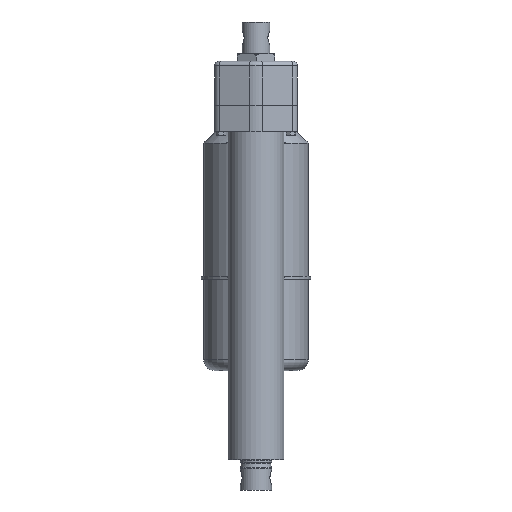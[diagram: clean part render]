
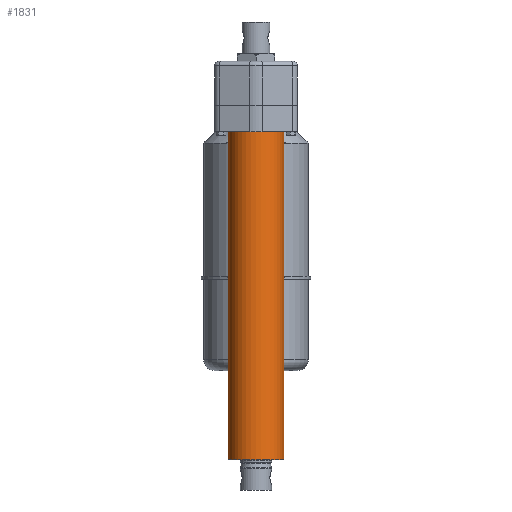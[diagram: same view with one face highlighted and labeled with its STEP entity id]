
A CAD part, front view. The second image highlights one B-rep face of the part: STEP entity #1831.
In plain terms, the highlighted cylindrical face has radius 25.65 mm (diameter 51.3 mm), a full revolution.
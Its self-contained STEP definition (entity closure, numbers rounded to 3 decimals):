
#1339 = EDGE_CURVE ( 'NONE', #5452, #5452, #1628, .T. ) ;
#1350 = EDGE_CURVE ( 'NONE', #5458, #5458, #1642, .T. ) ;
#1628 = CIRCLE ( 'NONE', #2234, 25.65 ) ;
#1642 = CIRCLE ( 'NONE', #2258, 25.65 ) ;
#1831 = ADVANCED_FACE ( 'NONE', ( #2930, #2929 ), #2928, .T. ) ;
#2037 = EDGE_LOOP ( 'NONE', ( #5670 ) ) ;
#2041 = EDGE_LOOP ( 'NONE', ( #5669 ) ) ;
#2234 = AXIS2_PLACEMENT_3D ( 'NONE', #4025, #4124, #4125 ) ;
#2258 = AXIS2_PLACEMENT_3D ( 'NONE', #4135, #4152, #4153 ) ;
#2347 = AXIS2_PLACEMENT_3D ( 'NONE', #5093, #5111, #5110 ) ;
#2928 = CYLINDRICAL_SURFACE ( 'NONE', #2347, 25.65 ) ;
#2929 = FACE_OUTER_BOUND ( 'NONE', #2041, .T. ) ;
#2930 = FACE_OUTER_BOUND ( 'NONE', #2037, .T. ) ;
#4025 = CARTESIAN_POINT ( 'NONE',  ( 0., 0., 301.3 ) ) ;
#4124 = DIRECTION ( 'NONE',  ( 0., 0., 1. ) ) ;
#4125 = DIRECTION ( 'NONE',  ( 1., 0., 0. ) ) ;
#4135 = CARTESIAN_POINT ( 'NONE',  ( 0., 0., 0. ) ) ;
#4152 = DIRECTION ( 'NONE',  ( 0., 0., -1. ) ) ;
#4153 = DIRECTION ( 'NONE',  ( 1., 0., 0. ) ) ;
#5093 = CARTESIAN_POINT ( 'NONE',  ( 0., 0., -72.549 ) ) ;
#5110 = DIRECTION ( 'NONE',  ( 1., 0., 0. ) ) ;
#5111 = DIRECTION ( 'NONE',  ( 0., 0., 1. ) ) ;
#5452 = VERTEX_POINT ( 'NONE', #5453 ) ;
#5453 = CARTESIAN_POINT ( 'NONE',  ( 25.65, 0., 301.3 ) ) ;
#5458 = VERTEX_POINT ( 'NONE', #5459 ) ;
#5459 = CARTESIAN_POINT ( 'NONE',  ( 25.65, 0., 0. ) ) ;
#5669 = ORIENTED_EDGE ( 'NONE', *, *, #1339, .F. ) ;
#5670 = ORIENTED_EDGE ( 'NONE', *, *, #1350, .F. ) ;
